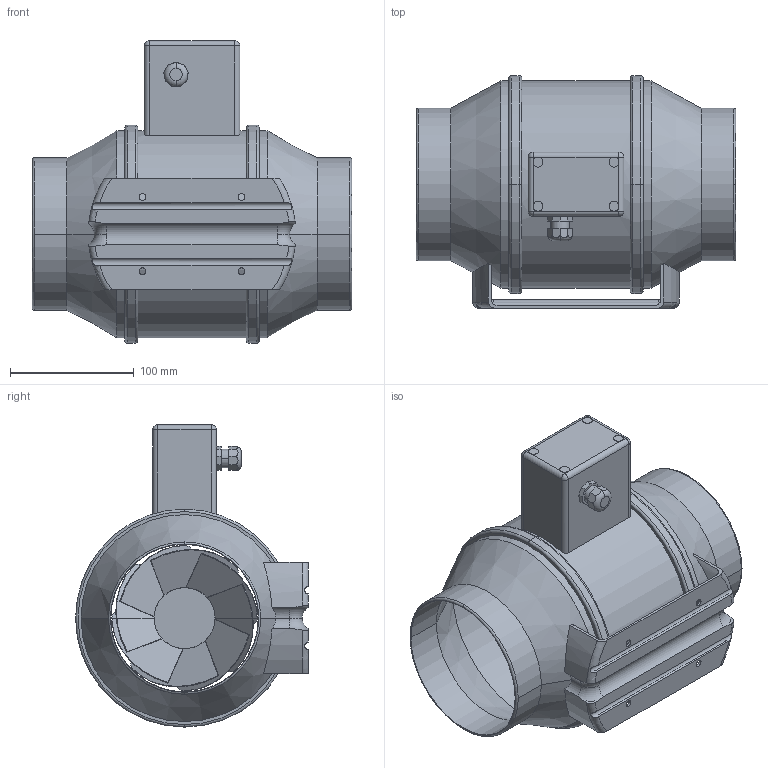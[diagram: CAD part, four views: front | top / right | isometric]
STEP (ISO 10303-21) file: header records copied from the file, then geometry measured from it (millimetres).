
FILE_DESCRIPTION(('STEP AP214'),'1');
FILE_NAME('fan_5211022800.stp','2017-03-31T12:38:54',('TraceParts'),('TraceParts S.A.'),'Spatial InterOp 3D',' ',' ');
FILE_SCHEMA(('automotive_design'));
Length unit declared in the file: millimetre
Products named in the file (1): fan_5211022800
Bounding box: 258 x 188 x 244 mm (x, y, z)
Volume: 741664 mm3; surface area: 370367.7 mm2
Topology: 1 solids, 1 shells, 222 faces, 599 edges, 381 vertices
Faces by surface type: cylinder 92, plane 84, torus 34, cone 8, sphere 4
Entity records: 11363 total; most frequent: CARTESIAN_POINT 3991, ORIENTED_EDGE 1190, DIRECTION 1187, EDGE_CURVE 595, AXIS2_PLACEMENT_3D 483, VERTEX_POINT 381, EDGE_LOOP 242, CIRCLE 232
